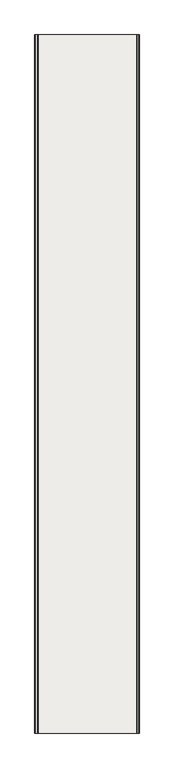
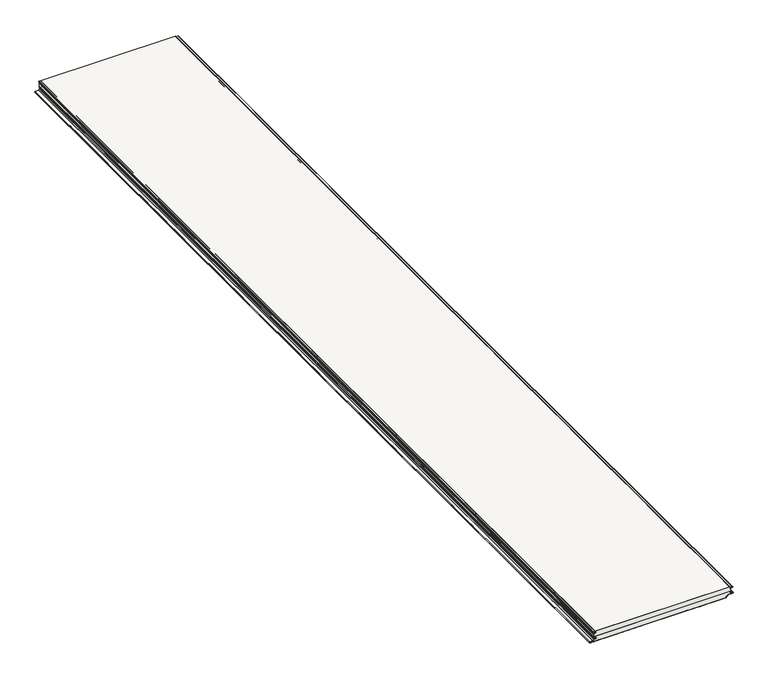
"""IFC4 building model written with IfcOpenShell, lengths in millimetres: covering geometry, Płyta warstwowa ścienna SPW-H CORE PIR (pojedynczy arkusz) : -."""

from ifc_helpers import new_model, si_unit, point, frame, frame_2d, origin, place, context, project, spatial, polyline, circle_curve, trimmed, segment, composite_curve, outline, extrude, source, transform, mapped, element, save
from ifc_brep_helpers import plane_surface, cylinder_surface, revolved_surface, advanced_brep


def covering_aa46a6c9(model_context):
    return source(origin(), model_context, "Body", "SolidModel", [
        extrude(outline(composite_curve([segment(polyline([(-15.1088808, -1083.0523344), (-14.5423642, -1072.2421917)]), True, "CONTINUOUS"), segment(trimmed(circle_curve(frame_2d((-9.549216, -1072.5038628)), 5.0), [point((-14.5423642, -1072.2421917))], [point((-4.5522622, -1072.3293566))], False, "CARTESIAN"), True, "CONTINUOUS"), segment(polyline([(-4.5522622, -1072.3293566), (-4.0495702, -1086.7238515)]), True, "CONTINUOUS"), segment(trimmed(circle_curve(frame_2d((-2.5266447, -1086.6173528)), 1.5266447), [point((-4.0495702, -1086.7238515))], [point((-1.0, -1086.6173528))], True, "CARTESIAN"), True, "CONTINUOUS"), segment(polyline([(-1.0, -1086.6173528), (-1.0, -1085.0000002), (0.0, -1085.0000002), (0.0, -1086.6173528)]), True, "CONTINUOUS"), segment(trimmed(circle_curve(frame_2d((-2.5266447, -1086.6173528)), 2.5266447), [point((0.0, -1086.6173528))], [point((-5.0484281, -1086.7740117))], False, "CARTESIAN"), True, "CONTINUOUS"), segment(polyline([(-5.0484281, -1086.7740117), (-5.551653, -1072.3642578)]), True, "CONTINUOUS"), segment(trimmed(circle_curve(frame_2d((-9.549216, -1072.5038628)), 4.0), [point((-5.551653, -1072.3642578))], [point((-13.5437346, -1072.2945259))], True, "CARTESIAN"), True, "CONTINUOUS"), segment(polyline([(-13.5437346, -1072.2945259), (-14.1102512, -1083.1046686)]), True, "CONTINUOUS"), segment(trimmed(circle_curve(frame_2d((-16.1075105, -1083.0000002)), 2.0), [point((-14.1102512, -1083.1046686))], [point((-16.1075105, -1085.0000002))], False, "CARTESIAN"), True, "CONTINUOUS"), segment(polyline([(-16.1075105, -1085.0000002), (-18.1075105, -1085.0000002), (-18.1075105, -1084.0000002), (-16.1075105, -1084.0000002)]), True, "CONTINUOUS"), segment(trimmed(circle_curve(frame_2d((-16.1075105, -1083.0000002)), 1.0), [point((-16.1075105, -1084.0000002))], [point((-15.1088808, -1083.0523344))], True, "CARTESIAN"), True, "CONTINUOUS")], self_intersect=False)), frame((0.0, -7350.0, 0.0), z_axis=(0.0, 1.0, 0.0), x_axis=(0.0, 0.0, 1.0)), (0.0, 0.0, 1.0), 7350.0),
        advanced_brep(
        [(-1080.5824881, -7350.0, -62.0150874), (-1069.3324881, -7350.0, -61.9992045), (-1069.0709827, -7350.0, -52.0060522), (-1083.2742213, -7350.0, -51.2619406), (-1084.0000002, -7350.0, -50.4971426), (-1084.0000002, -7350.0, -41.4971426), (-1085.0000002, -7350.0, -41.4971426), (-1085.0000002, -7350.0, -50.4971426), (-1083.3265398, -7350.0, -52.260571), (-1069.1233012, -7350.0, -53.0046827), (-1069.3331638, -7350.0, -60.9992044), (-1080.6396584, -7350.0, -61.0151671), (-1082.7899393, -7350.0, -62.27871), (-1088.1496636, -7350.0, -69.933474), (-1090.1975251, -7350.0, -70.9995686), (-1113.4143747, -7350.0, -70.9999738), (-1113.4142962, -7350.0, -80.0), (-1085.0000002, -7350.0, -80.0), (-1085.0000002, -7350.0, -79.0), (-1113.4142962, -7350.0, -79.0), (-1113.4143573, -7350.0, -72.0), (-1090.1975077, -7350.0, -71.9995686), (-1087.3305016, -7350.0, -70.5070361), (-1081.9707773, -7350.0, -62.8522722), (-1080.5824881, 0.0, -62.0150874), (-1081.9707773, 0.0, -62.8522722), (-1087.3305016, 0.0, -70.5070361), (-1090.1975077, 0.0, -71.9995686), (-1113.4143573, 0.0, -71.9999738), (-1113.4142962, 0.0, -79.0), (-1085.0000002, 0.0, -79.0), (-1085.0000002, 0.0, -80.0), (-1113.4142962, 0.0, -80.0), (-1113.4143747, 0.0, -71.0), (-1090.1975251, 0.0, -70.9995686), (-1088.1496636, 0.0, -69.933474), (-1082.7899393, 0.0, -62.27871), (-1080.6396584, 0.0, -61.0151671), (-1069.3331638, 0.0, -60.9992044), (-1069.1233012, 0.0, -53.0046827), (-1083.3265398, 0.0, -52.260571), (-1085.0000002, 0.0, -50.4971426), (-1085.0000002, 0.0, -41.4971426), (-1084.0000002, 0.0, -41.4971426), (-1084.0000002, 0.0, -50.4971426), (-1083.2742213, 0.0, -51.2619406), (-1069.0709827, 0.0, -52.0060522), (-1069.3324881, 0.0, -61.9992045)],
        [
            (0, 1),
            (1, 2, circle_curve(frame((-1069.3325753, -7350.0, -56.9992045), z_axis=(0.0, -1.0, 0.0), x_axis=(1.0, 0.0, 0.0)), 5.0)),
            (2, 3),
            (3, 4, circle_curve(frame((-1083.2341533, -7350.0, -50.4971426), z_axis=(0.0, 1.0, 0.0), x_axis=(1.0, 0.0, 0.0)), 0.7658469)),
            (4, 5),
            (5, 6),
            (6, 7),
            (7, 8, circle_curve(frame((-1083.2341533, -7350.0, -50.4971426), z_axis=(0.0, -1.0, 0.0), x_axis=(1.0, 0.0, 0.0)), 1.7658469)),
            (8, 9),
            (9, 10, circle_curve(frame((-1069.3325753, -7350.0, -56.9992045), z_axis=(0.0, 1.0, 0.0), x_axis=(1.0, 0.0, 0.0)), 4.0)),
            (10, 11),
            (11, 12, circle_curve(frame((-1080.3324532, -7350.0, -63.9993964), z_axis=(0.0, -1.0, 0.0), x_axis=(1.0, 0.0, 0.0)), 3.0)),
            (12, 13),
            (13, 14, circle_curve(frame((-1090.1975688, -7350.0, -68.4995686), z_axis=(0.0, 1.0, 0.0), x_axis=(1.0, 0.0, 0.0)), 2.5)),
            (14, 15),
            (15, 16, circle_curve(frame((-1113.4142962, -7350.0, -75.5), z_axis=(0.0, -1.0, 0.0), x_axis=(1.0, 0.0, 0.0)), 4.5)),
            (16, 17),
            (17, 18),
            (18, 19),
            (19, 20, circle_curve(frame((-1113.4142962, -7350.0, -75.5), z_axis=(0.0, 1.0, 0.0), x_axis=(1.0, 0.0, 0.0)), 3.5)),
            (20, 21),
            (21, 22, circle_curve(frame((-1090.1975688, -7350.0, -68.4995686), z_axis=(0.0, -1.0, 0.0), x_axis=(1.0, 0.0, 0.0)), 3.5)),
            (22, 23),
            (23, 0, circle_curve(frame((-1080.3324532, -7350.0, -63.9993964), z_axis=(0.0, 1.0, 0.0), x_axis=(1.0, 0.0, 0.0)), 2.0)),
            (24, 25, circle_curve(frame((-1080.3324532, 0.0, -63.9993964), z_axis=(0.0, -1.0, 0.0), x_axis=(1.0, 0.0, 0.0)), 2.0)),
            (25, 26),
            (26, 27, circle_curve(frame((-1090.1975688, 0.0, -68.4995686), z_axis=(0.0, 1.0, 0.0), x_axis=(1.0, 0.0, 0.0)), 3.5)),
            (27, 28),
            (28, 29, circle_curve(frame((-1113.4142962, 0.0, -75.5), z_axis=(0.0, -1.0, 0.0), x_axis=(1.0, 0.0, 0.0)), 3.5)),
            (29, 30),
            (30, 31),
            (31, 32),
            (32, 33, circle_curve(frame((-1113.4142962, 0.0, -75.5), z_axis=(0.0, 1.0, 0.0), x_axis=(1.0, 0.0, 0.0)), 4.5)),
            (33, 34),
            (34, 35, circle_curve(frame((-1090.1975688, 0.0, -68.4995686), z_axis=(0.0, -1.0, 0.0), x_axis=(1.0, 0.0, 0.0)), 2.5)),
            (35, 36),
            (36, 37, circle_curve(frame((-1080.3324532, 0.0, -63.9993964), z_axis=(0.0, 1.0, 0.0), x_axis=(1.0, 0.0, 0.0)), 3.0)),
            (37, 38),
            (38, 39, circle_curve(frame((-1069.3325753, 0.0, -56.9992045), z_axis=(0.0, -1.0, 0.0), x_axis=(1.0, 0.0, 0.0)), 4.0)),
            (39, 40),
            (40, 41, circle_curve(frame((-1083.2341533, 0.0, -50.4971426), z_axis=(0.0, 1.0, 0.0), x_axis=(1.0, 0.0, 0.0)), 1.7658469)),
            (41, 42),
            (42, 43),
            (43, 44),
            (44, 45, circle_curve(frame((-1083.2341533, 0.0, -50.4971426), z_axis=(0.0, -1.0, 0.0), x_axis=(1.0, 0.0, 0.0)), 0.7658469)),
            (45, 46),
            (46, 47, circle_curve(frame((-1069.3325753, 0.0, -56.9992045), z_axis=(0.0, 1.0, 0.0), x_axis=(1.0, 0.0, 0.0)), 5.0)),
            (47, 24),
            (0, 24),
            (47, 1),
            (46, 2),
            (45, 3),
            (44, 4),
            (43, 5),
            (42, 6),
            (16, 32),
            (31, 17),
            (30, 18),
            (29, 19),
            (41, 7),
            (40, 8),
            (39, 9),
            (38, 10),
            (37, 11),
            (36, 12),
            (35, 13),
            (34, 14),
            (33, 15),
            (20, 28),
            (27, 21),
            (26, 22),
            (25, 23),
        ],
        [
            plane_surface(frame((-1085.0000002, -7350.0, -80.0), z_axis=(0.0, -1.0, 0.0), x_axis=(0.0, 0.0, -1.0))),
            plane_surface(frame((-1085.0000002, 0.0, -80.0), z_axis=(0.0, 1.0, 0.0), x_axis=(0.0, 0.0, -1.0))),
            plane_surface(frame((-1080.5824881, -7350.0, -62.0150874), z_axis=(0.001411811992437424, 0.0, -0.9999990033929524), x_axis=(0.0, 1.0, 0.0))),
            cylinder_surface(frame((-1069.3325753, -7350.0, -56.9992045), z_axis=(0.0, -1.0, 0.0), x_axis=(1.0, 0.0, 0.0)), 5.0),
            plane_surface(frame((-1069.0709827, -7350.0, -52.0060522), z_axis=(0.05231852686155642, 0.0, 0.998630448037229), x_axis=(0.0, 1.0, 0.0))),
            revolved_surface(polyline([(-1082.4683063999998, 0.0, -50.4971426), (-1082.4683063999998, -7350.0, -50.4971426)]), (-1083.2341533, -7350.0, -50.4971426), (0.0, 1.0, 0.0)),
            plane_surface(frame((-1084.0000002, -7350.0, -50.4971426), z_axis=(1.0, 0.0, 0.0), x_axis=(0.0, 1.0, 0.0))),
            plane_surface(frame((-1084.0000002, -7350.0, -41.4971426), z_axis=(0.0, 0.0, 1.0), x_axis=(0.0, 1.0, 0.0))),
            plane_surface(frame((-1113.4142962, -7350.0, -80.0), z_axis=(0.0, 0.0, -1.0), x_axis=(0.0, 1.0, 0.0))),
            plane_surface(frame((-1085.0000002, -7350.0, -80.0), z_axis=(1.0, 0.0, 0.0), x_axis=(0.0, 1.0, 0.0))),
            plane_surface(frame((-1085.0000002, -7350.0, -79.0), z_axis=(0.0, 0.0, 1.0), x_axis=(0.0, 1.0, 0.0))),
            plane_surface(frame((-1085.0000002, -7350.0, -41.4971426), z_axis=(-1.0, 0.0, 0.0), x_axis=(0.0, 1.0, 0.0))),
            cylinder_surface(frame((-1083.2341533, -7350.0, -50.4971426), z_axis=(0.0, -1.0, 0.0), x_axis=(1.0, 0.0, 0.0)), 1.7658469),
            plane_surface(frame((-1083.3265398, -7350.0, -52.260571), z_axis=(-0.05231852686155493, 0.0, -0.998630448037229), x_axis=(0.0, 1.0, 0.0))),
            revolved_surface(polyline([(-1065.3325753, 0.0, -56.9992045), (-1065.3325753, -7350.0, -56.9992045)]), (-1069.3325753, -7350.0, -56.9992045), (0.0, 1.0, 0.0)),
            plane_surface(frame((-1069.3331638, -7350.0, -60.9992044), z_axis=(-0.0014118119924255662, 0.0, 0.9999990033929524), x_axis=(0.0, 1.0, 0.0))),
            cylinder_surface(frame((-1080.3324532, -7350.0, -63.9993964), z_axis=(0.0, -1.0, 0.0), x_axis=(1.0, 0.0, 0.0)), 3.0),
            plane_surface(frame((-1082.7899393, -7350.0, -62.27871), z_axis=(-0.8191620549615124, 0.0, 0.5735621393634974), x_axis=(0.0, 1.0, 0.0))),
            revolved_surface(polyline([(-1087.6975688, 0.0, -68.4995686), (-1087.6975688, -7350.0, -68.4995686)]), (-1090.1975688, -7350.0, -68.4995686), (0.0, 1.0, 0.0)),
            plane_surface(frame((-1090.1975251, -7350.0, -70.9995686), z_axis=(-1.745329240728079e-05, 0.0, 0.9999999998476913), x_axis=(0.0, 1.0, 0.0))),
            plane_surface(frame((-1113.4143573, -7350.0, -71.9999738), z_axis=(1.745329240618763e-05, 0.0, -0.9999999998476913), x_axis=(0.0, 1.0, 0.0))),
            cylinder_surface(frame((-1090.1975688, -7350.0, -68.4995686), z_axis=(0.0, -1.0, 0.0), x_axis=(1.0, 0.0, 0.0)), 3.5),
            plane_surface(frame((-1087.3305016, -7350.0, -70.5070361), z_axis=(0.8191620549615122, 0.0, -0.5735621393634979), x_axis=(0.0, 1.0, 0.0))),
            revolved_surface(polyline([(-1078.3324532, 0.0, -63.9993964), (-1078.3324532, -7350.0, -63.9993964)]), (-1080.3324532, -7350.0, -63.9993964), (0.0, 1.0, 0.0)),
            cylinder_surface(frame((-1113.4142962, -7350.0, -75.5), z_axis=(0.0, -1.0, 0.0), x_axis=(1.0, 0.0, 0.0)), 4.5),
            revolved_surface(polyline([(-1109.9142962, 0.0, -75.5), (-1109.9142962, -7350.0, -75.5)]), (-1113.4142962, -7350.0, -75.5), (0.0, 1.0, 0.0)),
        ],
        [
            (0, [[1, 2, 3, 4, 5, 6, 7, 8, 9, 10, 11, 12, 13, 14, 15, 16, 17, 18, 19, 20, 21, 22, 23, 24]]),
            (1, [[25, 26, 27, 28, 29, 30, 31, 32, 33, 34, 35, 36, 37, 38, 39, 40, 41, 42, 43, 44, 45, 46, 47, 48]]),
            (2, [[-1, 49, -48, 50]]),
            (3, [[-2, -50, -47, 51]]),
            (4, [[-3, -51, -46, 52]]),
            (5, [[-4, -52, -45, 53]]),
            (6, [[-5, -53, -44, 54]]),
            (7, [[-6, -54, -43, 55]]),
            (8, [[-17, 56, -32, 57]]),
            (9, [[-18, -57, -31, 58]]),
            (10, [[-19, -58, -30, 59]]),
            (11, [[-7, -55, -42, 60]]),
            (12, [[-8, -60, -41, 61]]),
            (13, [[-9, -61, -40, 62]]),
            (14, [[-10, -62, -39, 63]]),
            (15, [[-11, -63, -38, 64]]),
            (16, [[-12, -64, -37, 65]]),
            (17, [[-13, -65, -36, 66]]),
            (18, [[-14, -66, -35, 67]]),
            (19, [[-15, -67, -34, 68]]),
            (20, [[-21, 69, -28, 70]]),
            (21, [[-22, -70, -27, 71]]),
            (22, [[-23, -71, -26, 72]]),
            (23, [[-24, -72, -25, -49]]),
            (24, [[-16, -68, -33, -56]]),
            (25, [[-20, -59, -29, -69]]),
        ],
    ),
        extrude(outline(composite_curve([segment(polyline([(-80.0, -1049.0098003), (-79.6, -1047.6275239), (-79.6, -1003.4098003), (-80.0, -1002.0275239), (-80.0, -957.8098003), (-79.6, -956.4275239), (-79.6, -912.2098003), (-80.0, -910.8275239), (-80.0, -866.6098003), (-79.6, -865.2275239), (-79.6, -821.0098003), (-80.0, -819.6275239), (-80.0, -775.4098003), (-79.6, -774.0275239), (-79.6, -729.8098003), (-80.0, -728.4275239), (-80.0, -684.2098003), (-79.6, -682.8275239), (-79.6, -638.6098003), (-80.0, -637.2275239), (-80.0, -593.0098003), (-79.6, -591.6275239), (-79.6, -547.4098003), (-80.0, -546.0275239), (-80.0, -501.8098003), (-79.6, -500.4275239), (-79.6, -456.2098003), (-80.0, -454.8275239), (-80.0, -410.6098003), (-79.6, -409.2275239), (-79.6, -365.0098003), (-80.0, -363.6275239), (-80.0, -319.4098003), (-79.6, -318.0275239), (-79.6, -273.8098003), (-80.0, -272.4275239), (-80.0, -228.2098003), (-79.6, -226.8275239), (-79.6, -182.6098003), (-80.0, -181.2275239), (-80.0, -137.0098003), (-79.6, -135.6275239), (-79.6, -91.4098003), (-80.0, -90.0275239), (-80.0, -73.4477183)]), True, "CONTINUOUS"), segment(trimmed(circle_curve(frame_2d((-75.0, -73.4477183)), 5.0), [point((-80.0, -73.4477183))], [point((-75.0, -68.4477183))], False, "CARTESIAN"), True, "CONTINUOUS"), segment(polyline([(-75.0, -68.4477183), (-72.008232, -68.4477183)]), True, "CONTINUOUS"), segment(trimmed(circle_curve(frame_2d((-72.008232, -66.4315256)), 2.0161927), [point((-72.008232, -68.4477183))], [point((-69.9920393, -66.4315256))], True, "CARTESIAN"), True, "CONTINUOUS"), segment(polyline([(-69.9920393, -66.4315256), (-69.9920393, -60.9141788)]), True, "CONTINUOUS"), segment(trimmed(circle_curve(frame_2d((-67.4959919, -60.9141788)), 2.4960474), [point((-69.9920393, -60.9141788))], [point((-67.9326372, -58.4566204))], False, "CARTESIAN"), True, "CONTINUOUS"), segment(polyline([(-67.9326372, -58.4566204), (-61.6533464, -57.3460478)]), True, "CONTINUOUS"), segment(trimmed(circle_curve(frame_2d((-62.0004127, -55.3763918)), 2.0), [point((-61.6533464, -57.3460478))], [point((-60.0004127, -55.3763918))], True, "CARTESIAN"), True, "CONTINUOUS"), segment(polyline([(-60.0004127, -55.3763918), (-60.0004127, -18.8763918)]), True, "CONTINUOUS"), segment(trimmed(circle_curve(frame_2d((-57.0004127, -18.8763918)), 3.0), [point((-60.0004127, -18.8763918))], [point((-54.0045241, -18.7193839))], False, "CARTESIAN"), True, "CONTINUOUS"), segment(polyline([(-54.0045241, -18.7193839), (-53.2754556, -32.6308399)]), True, "CONTINUOUS"), segment(trimmed(circle_curve(frame_2d((-50.7788817, -32.5)), 2.5), [point((-53.2754556, -32.6308399))], [point((-50.7788817, -35.0))], True, "CARTESIAN"), True, "CONTINUOUS"), segment(polyline([(-50.7788817, -35.0), (-41.4988817, -35.0), (-41.4988817, -36.0), (-50.7788817, -36.0)]), True, "CONTINUOUS"), segment(trimmed(circle_curve(frame_2d((-50.7788817, -32.5)), 3.5), [point((-50.7788817, -36.0))], [point((-54.2740851, -32.6831758))], False, "CARTESIAN"), True, "CONTINUOUS"), segment(polyline([(-54.2740851, -32.6831758), (-55.0031536, -18.7717199)]), True, "CONTINUOUS"), segment(trimmed(circle_curve(frame_2d((-57.0004127, -18.8763918)), 2.0), [point((-55.0031536, -18.7717199))], [point((-59.0004127, -18.8763918))], True, "CARTESIAN"), True, "CONTINUOUS"), segment(polyline([(-59.0004127, -18.8763918), (-59.0004127, -55.3763918)]), True, "CONTINUOUS"), segment(trimmed(circle_curve(frame_2d((-62.0004127, -55.3763918)), 3.0), [point((-59.0004127, -55.3763918))], [point((-61.4794682, -58.330815))], False, "CARTESIAN"), True, "CONTINUOUS"), segment(polyline([(-61.4794682, -58.330815), (-67.7580406, -59.4412605)]), True, "CONTINUOUS"), segment(trimmed(circle_curve(frame_2d((-67.4959919, -60.9141788)), 1.4960474), [point((-67.7580406, -59.4412605))], [point((-68.9920393, -60.9141788))], True, "CARTESIAN"), True, "CONTINUOUS"), segment(polyline([(-68.9920393, -60.9141788), (-68.9920393, -66.4315256)]), True, "CONTINUOUS"), segment(trimmed(circle_curve(frame_2d((-72.008232, -66.4315256)), 3.0161927), [point((-68.9920393, -66.4315256))], [point((-72.008232, -69.4477183))], False, "CARTESIAN"), True, "CONTINUOUS"), segment(polyline([(-72.008232, -69.4477183), (-75.0, -69.4477183)]), True, "CONTINUOUS"), segment(trimmed(circle_curve(frame_2d((-75.0, -73.4477183)), 4.0), [point((-75.0, -69.4477183))], [point((-79.0, -73.4477183))], True, "CARTESIAN"), True, "CONTINUOUS"), segment(polyline([(-79.0, -73.4477183), (-79.0, -1085.0000002), (-80.0, -1085.0000002), (-80.0, -1049.0098003)]), True, "CONTINUOUS")], self_intersect=False)), frame((0.0, -7350.0, 0.0), z_axis=(0.0, 1.0, 0.0), x_axis=(0.0, 0.0, 1.0)), (0.0, 0.0, 1.0), 7350.0),
        extrude(outline(composite_curve([segment(polyline([(-1.0, -1085.0000002), (-1.0, -42.1186621)]), True, "CONTINUOUS"), segment(trimmed(circle_curve(frame_2d((-2.5, -42.1186621)), 1.5), [point((-1.0, -42.1186621))], [point((-2.5, -40.6186621))], True, "CARTESIAN"), True, "CONTINUOUS"), segment(polyline([(-2.5, -40.6186621), (-4.3, -40.6186621)]), True, "CONTINUOUS"), segment(trimmed(circle_curve(frame_2d((-4.3, -38.1186621)), 2.5), [point((-4.3, -40.6186621))], [point((-6.7984771, -38.2059108))], False, "CARTESIAN"), True, "CONTINUOUS"), segment(polyline([(-6.7984771, -38.2059108), (-7.363951, -22.012857)]), True, "CONTINUOUS"), segment(trimmed(circle_curve(frame_2d((-9.3627326, -22.082656)), 2.0), [point((-7.363951, -22.012857))], [point((-11.3599917, -21.9779841))], True, "CARTESIAN"), True, "CONTINUOUS"), segment(polyline([(-11.3599917, -21.9779841), (-11.921027, -32.6831758)]), True, "CONTINUOUS"), segment(trimmed(circle_curve(frame_2d((-15.4162304, -32.5)), 3.5), [point((-11.921027, -32.6831758))], [point((-15.4162304, -36.0))], False, "CARTESIAN"), True, "CONTINUOUS"), segment(polyline([(-15.4162304, -36.0), (-18.1062304, -36.0), (-18.1062304, -35.0), (-15.4162304, -35.0)]), True, "CONTINUOUS"), segment(trimmed(circle_curve(frame_2d((-15.4162304, -32.5)), 2.5), [point((-15.4162304, -35.0))], [point((-12.9196566, -32.6308399))], True, "CARTESIAN"), True, "CONTINUOUS"), segment(polyline([(-12.9196566, -32.6308399), (-12.3586212, -21.9256482)]), True, "CONTINUOUS"), segment(trimmed(circle_curve(frame_2d((-9.3627326, -22.082656)), 3.0), [point((-12.3586212, -21.9256482))], [point((-6.3645601, -21.9779575))], False, "CARTESIAN"), True, "CONTINUOUS"), segment(polyline([(-6.3645601, -21.9779575), (-5.7990862, -38.1710114)]), True, "CONTINUOUS"), segment(trimmed(circle_curve(frame_2d((-4.3, -38.1186621)), 1.5), [point((-5.7990862, -38.1710114))], [point((-4.3, -39.6186621))], True, "CARTESIAN"), True, "CONTINUOUS"), segment(polyline([(-4.3, -39.6186621), (-2.5, -39.6186621)]), True, "CONTINUOUS"), segment(trimmed(circle_curve(frame_2d((-2.5, -42.1186621)), 2.5), [point((-2.5, -39.6186621))], [point((0.0, -42.1186621))], False, "CARTESIAN"), True, "CONTINUOUS"), segment(polyline([(0.0, -42.1186621), (0.0, -1085.0000002), (-1.0, -1085.0000002)]), True, "CONTINUOUS")], self_intersect=False)), frame((0.0, -7350.0, 0.0), z_axis=(0.0, 1.0, 0.0), x_axis=(0.0, 0.0, 1.0)), (0.0, 0.0, 1.0), 7350.0),
        advanced_brep(
        [(-1113.4142962, -7350.0, -79.0), (-1085.0000002, -7350.0, -79.0), (-73.4477183, -7350.0, -79.0), (-69.4477183, -7350.0, -75.0), (-69.4477183, -7350.0, -72.0078193), (-66.4315256, -7350.0, -68.9916266), (-60.9141788, -7350.0, -68.9916266), (-59.4412605, -7350.0, -67.7576279), (-58.330815, -7350.0, -61.4790555), (-55.3763918, -7350.0, -59.0), (-18.8763918, -7350.0, -59.0), (-18.7717199, -7350.0, -55.0027409), (-32.6831758, -7350.0, -54.2736724), (-36.0, -7350.0, -50.778469), (-36.0, -7350.0, -40.0), (-1084.0000002, -7350.0, -40.0), (-1084.0000002, -7350.0, -50.4971426), (-1083.2742213, -7350.0, -51.2619406), (-1069.0709827, -7350.0, -52.0060522), (-1069.3324881, -7350.0, -61.9992045), (-1080.3324881, -7350.0, -61.9993964), (-1081.9707773, -7350.0, -62.8522722), (-1087.3305016, -7350.0, -70.5070361), (-1090.1975077, -7350.0, -71.9995686), (-1113.4143573, -7350.0, -71.9999738), (-1085.0000002, 0.0, -79.0), (-1113.4142962, 0.0, -79.0), (-1113.4143573, 0.0, -72.0), (-1090.1975077, 0.0, -71.9995686), (-1087.3305016, 0.0, -70.5070361), (-1081.9707773, 0.0, -62.8522722), (-1080.3324881, 0.0, -61.9993964), (-1069.3324881, 0.0, -61.9992045), (-1069.0709827, 0.0, -52.0060522), (-1083.2742213, 0.0, -51.2619406), (-1084.0000002, 0.0, -50.4971426), (-1084.0000002, 0.0, -40.0), (-36.0, 0.0, -40.0), (-36.0, 0.0, -50.778469), (-32.6831758, 0.0, -54.2736724), (-18.7717199, 0.0, -55.0027409), (-18.8763918, 0.0, -59.0), (-55.3763918, 0.0, -59.0), (-58.330815, 0.0, -61.4790555), (-59.4412605, 0.0, -67.7576279), (-60.9141788, 0.0, -68.9916266), (-66.4315256, 0.0, -68.9916266), (-69.4477183, 0.0, -72.0078193), (-69.4477183, 0.0, -75.0), (-73.4477183, 0.0, -79.0)],
        [
            (0, 1),
            (1, 2),
            (2, 3, circle_curve(frame((-73.4477183, -7350.0, -75.0), z_axis=(0.0, -1.0, 0.0), x_axis=(-1.0, 0.0, 0.0)), 4.0)),
            (3, 4),
            (4, 5, circle_curve(frame((-66.4315256, -7350.0, -72.0078193), z_axis=(0.0, 1.0, 0.0), x_axis=(-1.0, 0.0, 0.0)), 3.0161927)),
            (5, 6),
            (6, 7, circle_curve(frame((-60.9141788, -7350.0, -67.4955792), z_axis=(0.0, -1.0, 0.0), x_axis=(-1.0, 0.0, 0.0)), 1.4960474)),
            (7, 8),
            (8, 9, circle_curve(frame((-55.3763918, -7350.0, -62.0), z_axis=(0.0, 1.0, 0.0), x_axis=(-1.0, 0.0, 0.0)), 3.0)),
            (9, 10),
            (10, 11, circle_curve(frame((-18.8763918, -7350.0, -57.0), z_axis=(0.0, -1.0, 0.0), x_axis=(-1.0, 0.0, 0.0)), 2.0)),
            (11, 12),
            (12, 13, circle_curve(frame((-32.5, -7350.0, -50.778469), z_axis=(0.0, 1.0, 0.0), x_axis=(-1.0, 0.0, 0.0)), 3.5)),
            (13, 14),
            (14, 15),
            (15, 16),
            (16, 17, circle_curve(frame((-1083.2341533, -7350.0, -50.4971426), z_axis=(0.0, -1.0, 0.0), x_axis=(-1.0, 0.0, 0.0)), 0.7658469)),
            (17, 18),
            (18, 19, circle_curve(frame((-1069.3325753, -7350.0, -56.9992045), z_axis=(0.0, 1.0, 0.0), x_axis=(-1.0, 0.0, 0.0)), 5.0)),
            (19, 20),
            (20, 21, circle_curve(frame((-1080.3324532, -7350.0, -63.9993964), z_axis=(0.0, -1.0, 0.0), x_axis=(-1.0, 0.0, 0.0)), 2.0)),
            (21, 22),
            (22, 23, circle_curve(frame((-1090.1975688, -7350.0, -68.4995686), z_axis=(0.0, 1.0, 0.0), x_axis=(-1.0, 0.0, 0.0)), 3.5)),
            (23, 24),
            (24, 0, circle_curve(frame((-1113.4142962, -7350.0, -75.5), z_axis=(0.0, -1.0, 0.0), x_axis=(-1.0, 0.0, 0.0)), 3.5)),
            (25, 26),
            (26, 27, circle_curve(frame((-1113.4142962, 0.0, -75.5), z_axis=(0.0, 1.0, 0.0), x_axis=(-1.0, 0.0, 0.0)), 3.5)),
            (27, 28),
            (28, 29, circle_curve(frame((-1090.1975688, 0.0, -68.4995686), z_axis=(0.0, -1.0, 0.0), x_axis=(-1.0, 0.0, 0.0)), 3.5)),
            (29, 30),
            (30, 31, circle_curve(frame((-1080.3324532, 0.0, -63.9993964), z_axis=(0.0, 1.0, 0.0), x_axis=(-1.0, 0.0, 0.0)), 2.0)),
            (31, 32),
            (32, 33, circle_curve(frame((-1069.3325753, 0.0, -56.9992045), z_axis=(0.0, -1.0, 0.0), x_axis=(-1.0, 0.0, 0.0)), 5.0)),
            (33, 34),
            (34, 35, circle_curve(frame((-1083.2341533, 0.0, -50.4971426), z_axis=(0.0, 1.0, 0.0), x_axis=(-1.0, 0.0, 0.0)), 0.7658469)),
            (35, 36),
            (36, 37),
            (37, 38),
            (38, 39, circle_curve(frame((-32.5, 0.0, -50.778469), z_axis=(0.0, -1.0, 0.0), x_axis=(-1.0, 0.0, 0.0)), 3.5)),
            (39, 40),
            (40, 41, circle_curve(frame((-18.8763918, 0.0, -57.0), z_axis=(0.0, 1.0, 0.0), x_axis=(-1.0, 0.0, 0.0)), 2.0)),
            (41, 42),
            (42, 43, circle_curve(frame((-55.3763918, 0.0, -62.0), z_axis=(0.0, -1.0, 0.0), x_axis=(-1.0, 0.0, 0.0)), 3.0)),
            (43, 44),
            (44, 45, circle_curve(frame((-60.9141788, 0.0, -67.4955792), z_axis=(0.0, 1.0, 0.0), x_axis=(-1.0, 0.0, 0.0)), 1.4960474)),
            (45, 46),
            (46, 47, circle_curve(frame((-66.4315256, 0.0, -72.0078193), z_axis=(0.0, -1.0, 0.0), x_axis=(-1.0, 0.0, 0.0)), 3.0161927)),
            (47, 48),
            (48, 49, circle_curve(frame((-73.4477183, 0.0, -75.0), z_axis=(0.0, 1.0, 0.0), x_axis=(-1.0, 0.0, 0.0)), 4.0)),
            (49, 25),
            (36, 15),
            (14, 37),
            (0, 26),
            (49, 2),
            (23, 28),
            (27, 24),
            (22, 29),
            (21, 30),
            (20, 31),
            (19, 32),
            (18, 33),
            (17, 34),
            (16, 35),
            (13, 38),
            (12, 39),
            (11, 40),
            (10, 41),
            (9, 42),
            (8, 43),
            (7, 44),
            (6, 45),
            (5, 46),
            (4, 47),
            (3, 48),
        ],
        [
            plane_surface(frame((-1145.0000002, -7350.0, -40.0), z_axis=(0.0, -1.0, 0.0), x_axis=(-1.0, 0.0, 0.0))),
            plane_surface(frame((-1145.0000002, 0.0, -40.0), z_axis=(0.0, 1.0, 0.0), x_axis=(1.0, 0.0, 0.0))),
            plane_surface(frame((15.0, -7350.0, -40.0), z_axis=(0.0, 0.0, 1.0), x_axis=(0.0, 1.0, 0.0))),
            plane_surface(frame((-1145.0000002, -7350.0, -79.0), z_axis=(0.0, 0.0, -1.0), x_axis=(0.0, 1.0, 0.0))),
            plane_surface(frame((-1113.4143573, -7350.0, -71.9999738), z_axis=(-1.7453294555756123e-05, 0.0, 0.9999999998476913), x_axis=(0.0, 1.0, 0.0))),
            revolved_surface(polyline([(-1093.6975688, -7350.0, -68.4995686), (-1093.6975688, 0.0, -68.4995686)]), (-1090.1975688, -7350.0, -68.4995686), (0.0, -1.0, 0.0)),
            plane_surface(frame((-1087.3305016, -7350.0, -70.5070361), z_axis=(-0.8191620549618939, 0.0, 0.5735621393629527), x_axis=(0.0, 1.0, 0.0))),
            cylinder_surface(frame((-1080.3324532, -7350.0, -63.9993964), z_axis=(0.0, 1.0, 0.0), x_axis=(-1.0, 0.0, 0.0)), 2.0),
            plane_surface(frame((-1080.3324881, -7350.0, -61.9993964), z_axis=(-1.7453292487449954e-05, 0.0, 0.9999999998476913), x_axis=(0.0, 1.0, 0.0))),
            revolved_surface(polyline([(-1074.3325753, -7350.0, -56.9992045), (-1074.3325753, 0.0, -56.9992045)]), (-1069.3325753, -7350.0, -56.9992045), (0.0, -1.0, 0.0)),
            plane_surface(frame((-1069.0709827, -7350.0, -52.0060522), z_axis=(-0.05231852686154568, 0.0, -0.9986304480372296), x_axis=(0.0, 1.0, 0.0))),
            cylinder_surface(frame((-1083.2341533, -7350.0, -50.4971426), z_axis=(0.0, 1.0, 0.0), x_axis=(-1.0, 0.0, 0.0)), 0.7658469),
            plane_surface(frame((-1084.0000002, -7350.0, -50.4971426), z_axis=(-1.0, 0.0, 0.0), x_axis=(0.0, 1.0, 0.0))),
            plane_surface(frame((-36.0, -7350.0, -15.4162304), z_axis=(1.0, 0.0, 0.0), x_axis=(0.0, 1.0, 0.0))),
            revolved_surface(polyline([(-36.0, -7350.0, -50.778469), (-36.0, 0.0, -50.778469)]), (-32.5, -7350.0, -50.778469), (0.0, -1.0, 0.0)),
            plane_surface(frame((-32.6831758, -7350.0, -54.2736724), z_axis=(0.05233595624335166, 0.0, 0.9986295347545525), x_axis=(0.0, 1.0, 0.0))),
            cylinder_surface(frame((-18.8763918, -7350.0, -57.0), z_axis=(0.0, 1.0, 0.0), x_axis=(-1.0, 0.0, 0.0)), 2.0),
            plane_surface(frame((-18.8763918, -7350.0, -59.0), z_axis=(0.0, 0.0, -1.0), x_axis=(0.0, 1.0, 0.0))),
            revolved_surface(polyline([(-58.3763918, -7350.0, -62.0), (-58.3763918, 0.0, -62.0)]), (-55.3763918, -7350.0, -62.0), (0.0, -1.0, 0.0)),
            plane_surface(frame((-58.330815, -7350.0, -61.4790555), z_axis=(0.9847174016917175, 0.0, -0.17415980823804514), x_axis=(0.0, 1.0, 0.0))),
            cylinder_surface(frame((-60.9141788, -7350.0, -67.4955792), z_axis=(0.0, 1.0, 0.0), x_axis=(-1.0, 0.0, 0.0)), 1.4960474),
            plane_surface(frame((-60.9141788, -7350.0, -68.9916266), z_axis=(0.0, 0.0, -1.0), x_axis=(0.0, 1.0, 0.0))),
            revolved_surface(polyline([(-69.4477183, -7350.0, -72.0078193), (-69.4477183, 0.0, -72.0078193)]), (-66.4315256, -7350.0, -72.0078193), (0.0, -1.0, 0.0)),
            plane_surface(frame((-69.4477183, -7350.0, -72.0078193), z_axis=(1.0, 0.0, 0.0), x_axis=(0.0, 1.0, 0.0))),
            cylinder_surface(frame((-73.4477183, -7350.0, -75.0), z_axis=(0.0, 1.0, 0.0), x_axis=(-1.0, 0.0, 0.0)), 4.0),
            cylinder_surface(frame((-1113.4142962, -7350.0, -75.5), z_axis=(0.0, 1.0, 0.0), x_axis=(-1.0, 0.0, 0.0)), 3.5),
        ],
        [
            (0, [[1, 2, 3, 4, 5, 6, 7, 8, 9, 10, 11, 12, 13, 14, 15, 16, 17, 18, 19, 20, 21, 22, 23, 24, 25]]),
            (1, [[26, 27, 28, 29, 30, 31, 32, 33, 34, 35, 36, 37, 38, 39, 40, 41, 42, 43, 44, 45, 46, 47, 48, 49, 50]]),
            (2, [[51, -15, 52, -37]]),
            (3, [[-1, 53, -26, -50, 54, -2]]),
            (4, [[55, -28, 56, -24]]),
            (5, [[-55, -23, 57, -29]]),
            (6, [[-57, -22, 58, -30]]),
            (7, [[-58, -21, 59, -31]]),
            (8, [[-59, -20, 60, -32]]),
            (9, [[-60, -19, 61, -33]]),
            (10, [[-61, -18, 62, -34]]),
            (11, [[-62, -17, 63, -35]]),
            (12, [[-63, -16, -51, -36]]),
            (13, [[64, -38, -52, -14]]),
            (14, [[-64, -13, 65, -39]]),
            (15, [[-65, -12, 66, -40]]),
            (16, [[-66, -11, 67, -41]]),
            (17, [[-67, -10, 68, -42]]),
            (18, [[-68, -9, 69, -43]]),
            (19, [[-69, -8, 70, -44]]),
            (20, [[-70, -7, 71, -45]]),
            (21, [[-71, -6, 72, -46]]),
            (22, [[-72, -5, 73, -47]]),
            (23, [[-73, -4, 74, -48]]),
            (24, [[-74, -3, -54, -49]]),
            (25, [[-56, -27, -53, -25]]),
        ],
    ),
        advanced_brep(
        [(-1085.0000002, -7350.0, -1.0), (-1086.6173528, -7350.0, -1.0), (-1086.7238515, -7350.0, -4.0495702), (-1072.3293566, -7350.0, -4.5522622), (-1072.2421917, -7350.0, -14.5423642), (-1083.0523344, -7350.0, -15.1088808), (-1084.0000002, -7350.0, -16.1075105), (-1084.0000002, -7350.0, -40.0), (-36.0, -7350.0, -40.0), (-36.0, -7350.0, -15.4162304), (-32.6831758, -7350.0, -11.921027), (-21.9779841, -7350.0, -11.3599917), (-22.012857, -7350.0, -7.363951), (-38.2059108, -7350.0, -6.7984771), (-40.6186621, -7350.0, -4.3), (-40.6186621, -7350.0, -2.5), (-42.1186621, -7350.0, -1.0), (-43.1368714, -7350.0, -1.0), (-1086.6173528, 0.0, -1.0), (-1085.0000002, 0.0, -1.0), (-43.1368714, 0.0, -1.0), (-42.1186621, 0.0, -1.0), (-40.6186621, 0.0, -2.5), (-40.6186621, 0.0, -4.3), (-38.2059108, 0.0, -6.7984771), (-22.012857, 0.0, -7.363951), (-21.9779841, 0.0, -11.3599917), (-32.6831758, 0.0, -11.921027), (-36.0, 0.0, -15.4162304), (-36.0, 0.0, -40.0), (-1084.0000002, 0.0, -40.0), (-1084.0000002, 0.0, -16.1075105), (-1083.0523344, 0.0, -15.1088808), (-1072.2421917, 0.0, -14.5423642), (-1072.3293566, 0.0, -4.5522622), (-1086.7238515, 0.0, -4.0495702)],
        [
            (0, 1),
            (1, 2, circle_curve(frame((-1086.6173528, -7350.0, -2.5266447), z_axis=(0.0, -1.0, 0.0), x_axis=(-1.0, 0.0, 0.0)), 1.5266447)),
            (2, 3),
            (3, 4, circle_curve(frame((-1072.5038628, -7350.0, -9.549216), z_axis=(0.0, 1.0, 0.0), x_axis=(-1.0, 0.0, 0.0)), 5.0)),
            (4, 5),
            (5, 6, circle_curve(frame((-1083.0000002, -7350.0, -16.1075105), z_axis=(0.0, -1.0, 0.0), x_axis=(-1.0, 0.0, 0.0)), 1.0)),
            (6, 7),
            (7, 8),
            (8, 9),
            (9, 10, circle_curve(frame((-32.5, -7350.0, -15.4162304), z_axis=(0.0, 1.0, 0.0), x_axis=(-1.0, 0.0, 0.0)), 3.5)),
            (10, 11),
            (11, 12, circle_curve(frame((-22.082656, -7350.0, -9.3627326), z_axis=(0.0, -1.0, 0.0), x_axis=(-1.0, 0.0, 0.0)), 2.0)),
            (12, 13),
            (13, 14, circle_curve(frame((-38.1186621, -7350.0, -4.3), z_axis=(0.0, 1.0, 0.0), x_axis=(-1.0, 0.0, 0.0)), 2.5)),
            (14, 15),
            (15, 16, circle_curve(frame((-42.1186621, -7350.0, -2.5), z_axis=(0.0, -1.0, 0.0), x_axis=(-1.0, 0.0, 0.0)), 1.5)),
            (16, 17),
            (17, 0),
            (18, 19),
            (19, 20),
            (20, 21),
            (21, 22, circle_curve(frame((-42.1186621, 0.0, -2.5), z_axis=(0.0, 1.0, 0.0), x_axis=(-1.0, 0.0, 0.0)), 1.5)),
            (22, 23),
            (23, 24, circle_curve(frame((-38.1186621, 0.0, -4.3), z_axis=(0.0, -1.0, 0.0), x_axis=(-1.0, 0.0, 0.0)), 2.5)),
            (24, 25),
            (25, 26, circle_curve(frame((-22.082656, 0.0, -9.3627326), z_axis=(0.0, 1.0, 0.0), x_axis=(-1.0, 0.0, 0.0)), 2.0)),
            (26, 27),
            (27, 28, circle_curve(frame((-32.5, 0.0, -15.4162304), z_axis=(0.0, -1.0, 0.0), x_axis=(-1.0, 0.0, 0.0)), 3.5)),
            (28, 29),
            (29, 30),
            (30, 31),
            (31, 32, circle_curve(frame((-1083.0000002, 0.0, -16.1075105), z_axis=(0.0, 1.0, 0.0), x_axis=(-1.0, 0.0, 0.0)), 1.0)),
            (32, 33),
            (33, 34, circle_curve(frame((-1072.5038628, 0.0, -9.549216), z_axis=(0.0, -1.0, 0.0), x_axis=(-1.0, 0.0, 0.0)), 5.0)),
            (34, 35),
            (35, 18, circle_curve(frame((-1086.6173528, 0.0, -2.5266447), z_axis=(0.0, 1.0, 0.0), x_axis=(-1.0, 0.0, 0.0)), 1.5266447)),
            (16, 21),
            (18, 1),
            (7, 30),
            (29, 8),
            (6, 31),
            (5, 32),
            (4, 33),
            (3, 34),
            (2, 35),
            (15, 22),
            (14, 23),
            (13, 24),
            (12, 25),
            (11, 26),
            (10, 27),
            (9, 28),
        ],
        [
            plane_surface(frame((-1145.0000002, -7350.0, -1.0), z_axis=(0.0, -1.0, 0.0), x_axis=(-1.0, 0.0, 0.0))),
            plane_surface(frame((-1145.0000002, 0.0, -1.0), z_axis=(0.0, 1.0, 0.0), x_axis=(1.0, 0.0, 0.0))),
            plane_surface(frame((-5.0, -7350.0, -1.0), z_axis=(0.0, 0.0, 1.0), x_axis=(0.0, 1.0, 0.0))),
            plane_surface(frame((-1145.0000002, -7350.0, -40.0), z_axis=(0.0, 0.0, -1.0), x_axis=(0.0, 1.0, 0.0))),
            plane_surface(frame((-1084.0000002, -7350.0, -50.4971426), z_axis=(-1.0, 0.0, 0.0), x_axis=(0.0, 1.0, 0.0))),
            cylinder_surface(frame((-1083.0000002, -7350.0, -16.1075105), z_axis=(0.0, 1.0, 0.0), x_axis=(-1.0, 0.0, 0.0)), 1.0),
            plane_surface(frame((-1083.0523344, -7350.0, -15.1088808), z_axis=(-0.052334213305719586, 0.0, 0.9986296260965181), x_axis=(0.0, 1.0, 0.0))),
            revolved_surface(polyline([(-1077.5038628, -7350.0, -9.549216), (-1077.5038628, 0.0, -9.549216)]), (-1072.5038628, -7350.0, -9.549216), (0.0, -1.0, 0.0)),
            plane_surface(frame((-1072.3293566, -7350.0, -4.5522622), z_axis=(-0.03490124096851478, 0.0, -0.9993907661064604), x_axis=(0.0, 1.0, 0.0))),
            cylinder_surface(frame((-42.1186621, -7350.0, -2.5), z_axis=(0.0, 1.0, 0.0), x_axis=(-1.0, 0.0, 0.0)), 1.5),
            plane_surface(frame((-40.6186621, -7350.0, -2.5), z_axis=(1.0, 0.0, 0.0), x_axis=(0.0, 1.0, 0.0))),
            revolved_surface(polyline([(-40.6186621, -7350.0, -4.3), (-40.6186621, 0.0, -4.3)]), (-38.1186621, -7350.0, -4.3), (0.0, -1.0, 0.0)),
            plane_surface(frame((-38.2059108, -7350.0, -6.7984771), z_axis=(0.03489949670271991, 0.0, 0.9993908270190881), x_axis=(0.0, 1.0, 0.0))),
            cylinder_surface(frame((-22.082656, -7350.0, -9.3627326), z_axis=(0.0, 1.0, 0.0), x_axis=(-1.0, 0.0, 0.0)), 2.0),
            plane_surface(frame((-21.9779841, -7350.0, -11.3599917), z_axis=(0.052335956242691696, 0.0, -0.9986295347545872), x_axis=(0.0, 1.0, 0.0))),
            revolved_surface(polyline([(-36.0, -7350.0, -15.4162304), (-36.0, 0.0, -15.4162304)]), (-32.5, -7350.0, -15.4162304), (0.0, -1.0, 0.0)),
            plane_surface(frame((-36.0, -7350.0, -15.4162304), z_axis=(1.0, 0.0, 0.0), x_axis=(0.0, 1.0, 0.0))),
            cylinder_surface(frame((-1086.6173528, -7350.0, -2.5266447), z_axis=(0.0, 1.0, 0.0), x_axis=(-1.0, 0.0, 0.0)), 1.5266447),
        ],
        [
            (0, [[1, 2, 3, 4, 5, 6, 7, 8, 9, 10, 11, 12, 13, 14, 15, 16, 17, 18]]),
            (1, [[19, 20, 21, 22, 23, 24, 25, 26, 27, 28, 29, 30, 31, 32, 33, 34, 35, 36]]),
            (2, [[-1, -18, -17, 37, -21, -20, -19, 38]]),
            (3, [[39, -30, 40, -8]]),
            (4, [[41, -31, -39, -7]]),
            (5, [[-41, -6, 42, -32]]),
            (6, [[-42, -5, 43, -33]]),
            (7, [[-43, -4, 44, -34]]),
            (8, [[-44, -3, 45, -35]]),
            (9, [[46, -22, -37, -16]]),
            (10, [[-46, -15, 47, -23]]),
            (11, [[-47, -14, 48, -24]]),
            (12, [[-48, -13, 49, -25]]),
            (13, [[-49, -12, 50, -26]]),
            (14, [[-50, -11, 51, -27]]),
            (15, [[-51, -10, 52, -28]]),
            (16, [[-52, -9, -40, -29]]),
            (17, [[-45, -2, -38, -36]]),
        ],
    ),
    ])


if __name__ == "__main__":
    model = new_model("IFC4")
    model_context = context("Model", 3, world=origin())
    ifc_project = project(units=[si_unit("LENGTHUNIT", "METRE", prefix="MILLI")], contexts=[model_context])
    site = spatial("IfcSite", under=ifc_project)
    building = spatial("IfcBuilding", under=site)
    placement = place(None, origin())
    covering_shape = covering_aa46a6c9(model_context)
    element("IfcCovering", 1, ObjectType="Płyta warstwowa ścienna SPW-H CORE PIR (pojedynczy arkusz) : -", at=placement, inside=building, context=model_context, shape_type="MappedRepresentation", body=[
        mapped(covering_shape, transform((0.0, 0.0, 0.0), x_axis=(1.0, 0.0, 0.0), y_axis=(0.0, 1.0, 0.0), z_axis=(0.0, 0.0, 1.0))),
    ])
    save(model, "model.ifc")
